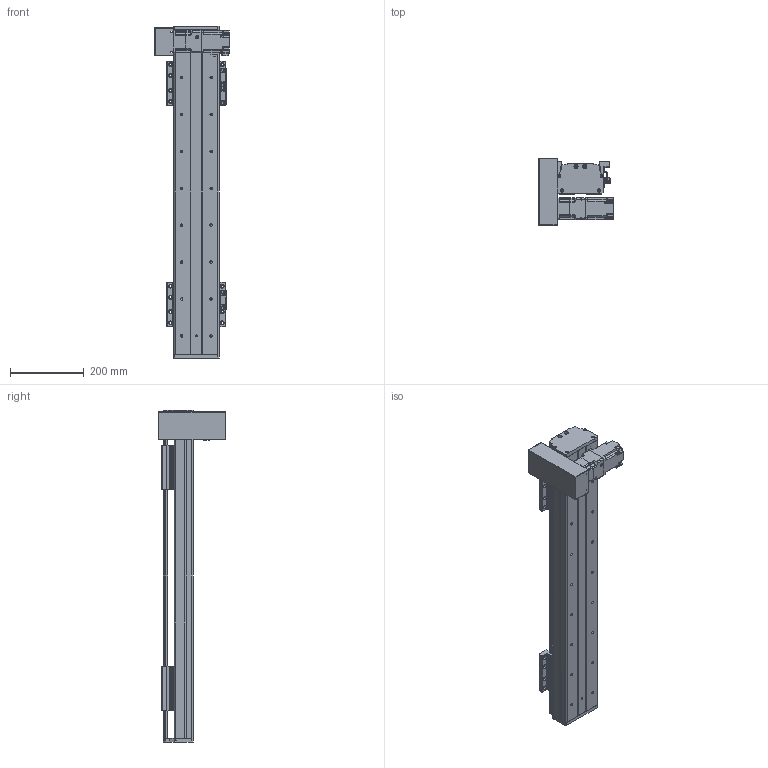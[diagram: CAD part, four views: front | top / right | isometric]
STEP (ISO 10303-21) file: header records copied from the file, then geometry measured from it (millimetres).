
FILE_DESCRIPTION(/* description */ (''),/* implementation_level */ '2;1');
FILE_NAME(/* name */ 'C:\Users\PC\Desktop\3D도면\STEP\DSB125-DL2G-W0600-R.stp',/* time_stamp */ '2018-06-21T14:48:30+09:00',/* author */ ('PC'),/* organization */ (''),/* preprocessor_version */ 'ST-DEVELOPER v16.5',/* originating_system */ 'Autodesk Inventor 2017',/* authorisation */ '');
FILE_SCHEMA (('AUTOMOTIVE_DESIGN { 1 0 10303 214 3 1 1 }'));
Length unit declared in the file: millimetre
Products named in the file (12): DSB125-L-300ST; DSR125-BASE(S-TYPE); DSR125-REAR COVER-R01(170203); DSR125-REAR COVER-R01(170203)_1; DSR125-UP COVER-R01(170203); hg-kr23_; ab0601-p0401200402; 13-BELT COVER; DSR126-SENSOR DOG; pm-y65_step; SENSOR BRACKET(EE-SX674A); DSR125-TABLE(MSA15X)
Assembly tree (16 placements, depth 2):
  DSB125-L-300ST
    DSR125-BASE(S-TYPE)
    DSR125-REAR COVER-R01(170203)
    DSR125-REAR COVER-R01(170203)_1
    DSR125-UP COVER-R01(170203)
    hg-kr23_
    ab0601-p0401200402
    13-BELT COVER
    DSR126-SENSOR DOG
    pm-y65_step  x3
    SENSOR BRACKET(EE-SX674A)  x3
    DSR125-TABLE(MSA15X)  x2
Bounding box: 202.1 x 182 x 900 mm (x, y, z)
Volume: 3697010.1 mm3; surface area: 1068018.3 mm2
Topology: 17 solids, 22 shells, 1657 faces, 4491 edges, 2964 vertices
Faces by surface type: plane 908, cylinder 629, cone 108, sphere 8, torus 4
Full cylindrical faces by diameter (mm): 2.459 x20, 3.242 x16, 3.5 x6, 4 x1, 4.134 x16, 4.2 x4, 4.3 x1, 4.5 x50, 4.917 x20, 5 x27, 5.3 x1, 5.5 x4, 5.6 x8, 5.8 x4, 5.9 x8, 6 x4, 6.6 x22, 6.647 x18, 7.5 x32, 8.5 x8, 8.7 x1, 11 x22, 14 x1, 16 x2, 17 x1, 20 x1, 47 x1, 50 x3
Entity records: 35270 total; most frequent: CARTESIAN_POINT 6487, DIRECTION 6108, ORIENTED_EDGE 5470, EDGE_CURVE 2740, AXIS2_PLACEMENT_3D 2242, VERTEX_POINT 1949, EDGE_LOOP 1665, LINE 1624
